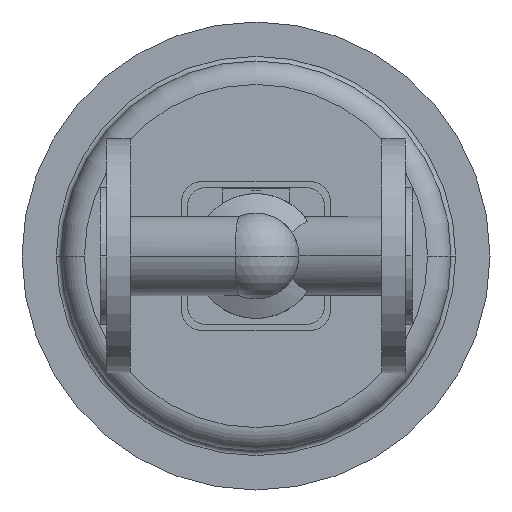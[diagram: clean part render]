
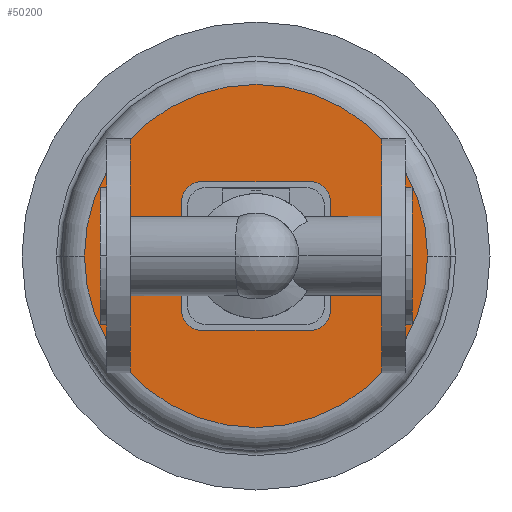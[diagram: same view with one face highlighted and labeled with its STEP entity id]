
A CAD part, front view. The second image highlights one B-rep face of the part: STEP entity #50200.
In plain terms, the highlighted planar face has unit normal (0, -1, 0).
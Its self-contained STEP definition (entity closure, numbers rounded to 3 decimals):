
#49370=CARTESIAN_POINT('',(118.45,532.,0.));
#49380=VERTEX_POINT('',#49370);
#49470=CARTESIAN_POINT('',(81.55,532.,0.));
#49480=VERTEX_POINT('',#49470);
#49510=CARTESIAN_POINT('',(100.,532.,0.));
#49520=DIRECTION('',(0.,1.,0.));
#49530=DIRECTION('',(1.,0.,0.));
#49540=AXIS2_PLACEMENT_3D('',#49510,#49520,#49530);
#49550=CIRCLE('',#49540,18.45);
#49560=EDGE_CURVE('',#49480,#49380,#49550,.T.);
#49610=CARTESIAN_POINT('',(155.,532.,0.));
#49620=DIRECTION('',(0.,-1.,0.));
#49630=DIRECTION('',(-1.,0.,0.));
#49640=AXIS2_PLACEMENT_3D('',#49610,#49620,#49630);
#49650=PLANE('',#49640);
#49660=EDGE_CURVE('',#49380,#49480,#49550,.T.);
#49670=ORIENTED_EDGE('',*,*,#49660,.T.);
#49680=ORIENTED_EDGE('',*,*,#49560,.T.);
#49690=EDGE_LOOP('',(#49680,#49670));
#49700=FACE_BOUND('',#49690,.T.);
#49710=CARTESIAN_POINT('',(50.,532.,0.));
#49720=DIRECTION('',(0.,1.,0.));
#49730=DIRECTION('',(1.,0.,0.));
#49740=AXIS2_PLACEMENT_3D('',#49710,#49720,#49730);
#49750=CIRCLE('',#49740,15.);
#49760=CARTESIAN_POINT('',(65.,532.,0.));
#49770=VERTEX_POINT('',#49760);
#49780=CARTESIAN_POINT('',(35.,532.,0.));
#49790=VERTEX_POINT('',#49780);
#49800=EDGE_CURVE('',#49770,#49790,#49750,.T.);
#49810=ORIENTED_EDGE('',*,*,#49800,.T.);
#49820=EDGE_CURVE('',#49790,#49770,#49750,.T.);
#49830=ORIENTED_EDGE('',*,*,#49820,.T.);
#49840=EDGE_LOOP('',(#49830,#49810));
#49850=FACE_BOUND('',#49840,.T.);
#49860=CARTESIAN_POINT('',(150.,532.,0.));
#49870=DIRECTION('',(0.,1.,0.));
#49880=DIRECTION('',(1.,0.,0.));
#49890=AXIS2_PLACEMENT_3D('',#49860,#49870,#49880);
#49900=CIRCLE('',#49890,15.);
#49910=CARTESIAN_POINT('',(165.,532.,0.));
#49920=VERTEX_POINT('',#49910);
#49930=CARTESIAN_POINT('',(135.,532.,0.));
#49940=VERTEX_POINT('',#49930);
#49950=EDGE_CURVE('',#49920,#49940,#49900,.T.);
#49960=ORIENTED_EDGE('',*,*,#49950,.T.);
#49970=EDGE_CURVE('',#49940,#49920,#49900,.T.);
#49980=ORIENTED_EDGE('',*,*,#49970,.T.);
#49990=EDGE_LOOP('',(#49980,#49960));
#50000=FACE_BOUND('',#49990,.T.);
#50010=CARTESIAN_POINT('',(100.,532.,0.));
#50020=DIRECTION('',(0.,1.,0.));
#50030=DIRECTION('',(1.,0.,0.));
#50040=AXIS2_PLACEMENT_3D('',#50010,#50020,#50030);
#50050=CIRCLE('',#50040,110.);
#50060=CARTESIAN_POINT('',(100.,532.,-110.));
#50070=VERTEX_POINT('',#50060);
#50080=CARTESIAN_POINT('',(-10.,532.,0.));
#50090=VERTEX_POINT('',#50080);
#50100=EDGE_CURVE('',#50070,#50090,#50050,.T.);
#50110=ORIENTED_EDGE('',*,*,#50100,.F.);
#50120=CARTESIAN_POINT('',(210.,532.,0.));
#50130=VERTEX_POINT('',#50120);
#50140=EDGE_CURVE('',#50090,#50130,#50050,.T.);
#50150=ORIENTED_EDGE('',*,*,#50140,.F.);
#50160=EDGE_CURVE('',#50130,#50070,#50050,.T.);
#50170=ORIENTED_EDGE('',*,*,#50160,.F.);
#50180=EDGE_LOOP('',(#50170,#50150,#50110));
#50190=FACE_OUTER_BOUND('',#50180,.T.);
#50200=ADVANCED_FACE('',(#49700,#49850,#50000,#50190),#49650,.T.);
